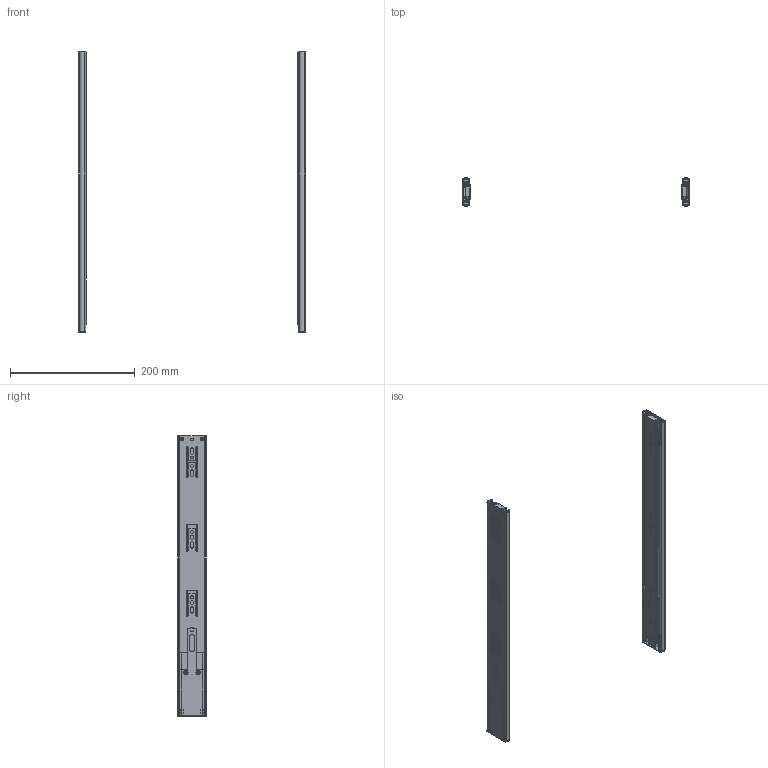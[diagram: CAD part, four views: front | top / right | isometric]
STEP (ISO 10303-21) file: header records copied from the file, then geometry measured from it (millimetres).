
FILE_DESCRIPTION(/* description */ (''),/* implementation_level */ '2;1');
FILE_NAME(/* name */ 'D:\$Workingspace\Designs\Katalog\Cadsoft\GTV Prowadnice\Prowadnice GTV_bryły 3D\PK-L-H45-450.stp',/* time_stamp */ '2016-11-22T14:06:14+01:00',/* author */ ('tomaszw'),/* organization */ (''),/* preprocessor_version */ 'ST-DEVELOPER v16.1',/* originating_system */ 'Autodesk Inventor 2016',/* authorisation */ '');
FILE_SCHEMA (('AUTOMOTIVE_DESIGN { 1 0 10303 214 3 1 1 }'));
Length unit declared in the file: millimetre
Products named in the file (6): PK-L-H45_1-450; PK-L-H45_2-450; PK-L-H45_3-450; PK-L-H45_4; PK-L-H45_5; PK-L-H45
Assembly tree (10 placements, depth 2):
  PK-L-H45
    PK-L-H45_1-450  x2
    PK-L-H45_2-450  x2
    PK-L-H45_3-450  x2
    PK-L-H45_4  x2
    PK-L-H45_5  x2
Bounding box: 364 x 45.3 x 450 mm (x, y, z)
Volume: 198480.4 mm3; surface area: 283342.4 mm2
Topology: 12 solids, 12 shells, 714 faces, 2070 edges, 1380 vertices
Faces by surface type: plane 430, cylinder 284
Full cylindrical faces by diameter (mm): 4.2 x4, 4.5 x14, 6.2 x4, 7.2 x4
Entity records: 12390 total; most frequent: CARTESIAN_POINT 2160, ORIENTED_EDGE 2040, DIRECTION 2040, EDGE_CURVE 1020, LINE 728, VECTOR 728, VERTEX_POINT 688, AXIS2_PLACEMENT_3D 656
